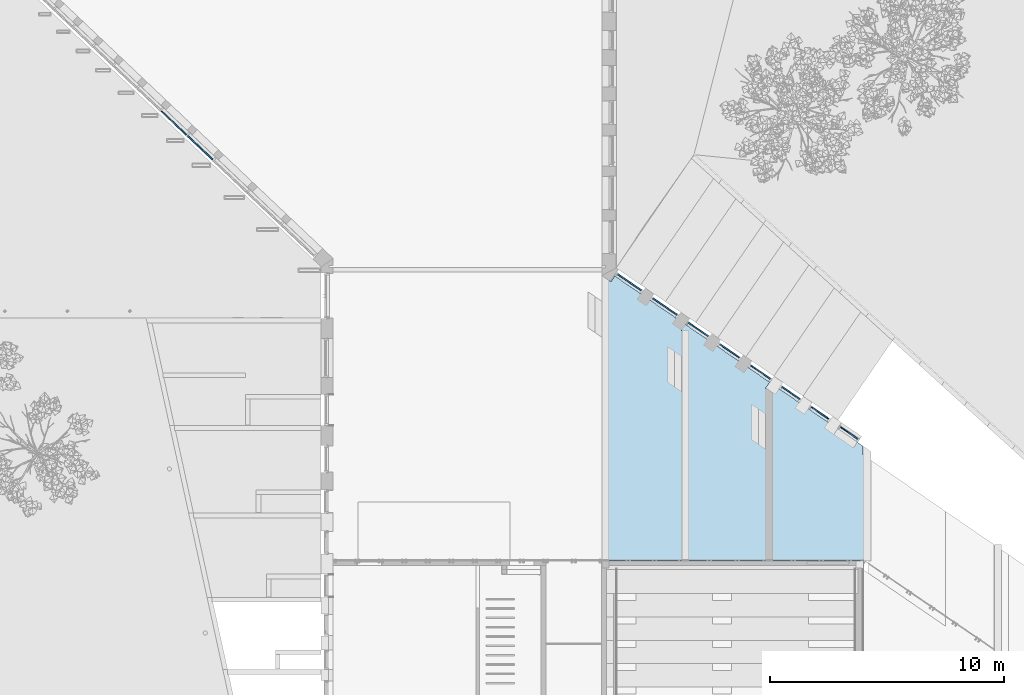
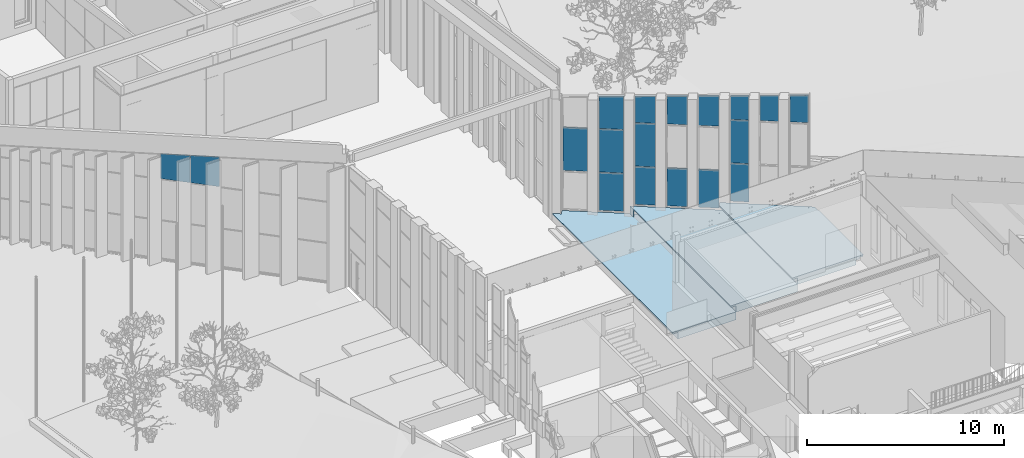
# One storey, part 99 of 246: 18 plates, 3 slabs, 9 elements without a shape of their own.
"""IFC2X3 building model written with IfcOpenShell, lengths in millimetres."""

from ifc_helpers import new_model, entity, si_unit, converted_unit, derived_unit, money_unit, direction, frame, origin_with_axes, place, context, subcontext, project, spatial, faceted_brep, material, material_list, type_object, element, aggregate, save


model = new_model("IFC2X3")

# Units and contexts
model_context = context("Model", 3, precision=0.01, world=origin_with_axes(), true_north=direction((0.0, 1.0)))
body_context = subcontext(model_context, "Body", "Model", "MODEL_VIEW")
ifc_project = project(units=[si_unit("LENGTHUNIT", "METRE", prefix="MILLI"), si_unit("AREAUNIT", "SQUARE_METRE"), si_unit("VOLUMEUNIT", "CUBIC_METRE"), converted_unit("PLANEANGLEUNIT", "DEGREE", entity("IfcPlaneAngleMeasure", 0.0174532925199), si_unit("PLANEANGLEUNIT", "RADIAN"), dimensions=[0, 0, 0, 0, 0, 0, 0]), si_unit("SOLIDANGLEUNIT", "STERADIAN"), money_unit("EUR"), converted_unit("TIMEUNIT", "Year", entity("IfcTimeMeasure", 31556926.0), si_unit("TIMEUNIT", "SECOND"), dimensions=[0, 0, 1, 0, 0, 0, 0]), si_unit("MASSUNIT", "GRAM", prefix="KILO"), si_unit("THERMODYNAMICTEMPERATUREUNIT", "DEGREE_CELSIUS"), si_unit("LUMINOUSINTENSITYUNIT", "LUMEN"), si_unit("ENERGYUNIT", "JOULE", prefix="MEGA"), derived_unit("THERMALCONDUCTANCEUNIT", [(si_unit("POWERUNIT", "WATT"), 1), (si_unit("LENGTHUNIT", "METRE"), -1), (si_unit("THERMODYNAMICTEMPERATUREUNIT", "KELVIN"), -1)]), derived_unit("SPECIFICHEATCAPACITYUNIT", [(si_unit("ENERGYUNIT", "JOULE"), 1), (si_unit("MASSUNIT", "GRAM", prefix="KILO"), -1), (si_unit("THERMODYNAMICTEMPERATUREUNIT", "KELVIN"), -1)]), derived_unit("MASSDENSITYUNIT", [(si_unit("MASSUNIT", "GRAM", prefix="KILO"), 1), (si_unit("VOLUMEUNIT", "CUBIC_METRE"), -1)])], contexts=[model_context])

# Site, building, storey
site_placement = place(None, origin_with_axes())
site = spatial("IfcSite", under=ifc_project, at=site_placement, Name="L.Koidula tn 11b", CompositionType="ELEMENT")
building_placement = place(site_placement, origin_with_axes())
building = spatial("IfcBuilding", under=site, at=building_placement, Name="Rakvere Riigigümnaasium", CompositionType="ELEMENT")
storey_placement = place(building_placement, origin_with_axes())
storey = spatial("IfcBuildingStorey", under=building, at=storey_placement, Name="1.korrus 0,00", CompositionType="ELEMENT", Elevation=0.0)

# Curtain wall, plates
curtain_wall_type = type_object("IfcCurtainWallType", Name="Curtain Wall Type", PredefinedType="NOTDEFINED")
curtain_wall_1_placement = place(storey_placement, frame((33997.0353268, 45217.6604975, 0.0), z_axis=(0.0, 0.0, 1.0), x_axis=(1.0, 0.0, 0.0)))
curtain_wall_1 = element("IfcCurtainWall", 1, at=curtain_wall_1_placement, inside=storey, type_object=curtain_wall_type, Name="KLF-02")
ifc_material_1 = material(Name="Klaaspakett 3x")
plate_type_1 = type_object("IfcPlateType", Name="Distinct Panel 1526 x 1685 x 54", PredefinedType="CURTAIN_PANEL")
plate_1_placement = place(curtain_wall_1_placement, frame((-5317.65867873, 5037.67120567, 5779.26815034), z_axis=(0.0, 0.0, 1.0), x_axis=(0.725960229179, -0.687736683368, 0.0)))
plate_1 = element("IfcPlate", 2, at=plate_1_placement, type_object=plate_type_1, material=ifc_material_1, Name="KLF-30-Klaasid", ObjectType="CURTAIN_PANEL", context=body_context, shape_type="Brep", body=[
    faceted_brep([(762.999986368, 27.0, 867.318635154), (762.999986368, -27.0, 867.318635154), (762.999986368, -27.0, -817.267823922), (762.999986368, 27.0, -817.267823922), (-762.999990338, 27.0, 716.858211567), (-762.999990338, -27.0, 716.858211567), (-762.999990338, -27.0, -817.267823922), (-762.999990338, 27.0, -817.267823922)], [[[0, 1, 2, 3]], [[4, 5, 1, 0]], [[1, 5, 6, 2]], [[3, 2, 6, 7]], [[0, 3, 7, 4]], [[7, 6, 5, 4]]]),
])
plate_type_2 = type_object("IfcPlateType", Name="Distinct Panel 1526 x 1837 x 54", PredefinedType="CURTAIN_PANEL")
plate_2_placement = place(curtain_wall_1_placement, frame((-4192.42032351, 3971.67934645, 5855.68154176), z_axis=(0.0, 0.0, 1.0), x_axis=(0.725960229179, -0.687736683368, 0.0)))
plate_2 = element("IfcPlate", 3, at=plate_2_placement, type_object=plate_type_2, material=ifc_material_1, Name="KLF-33-Klaasid", ObjectType="CURTAIN_PANEL", context=body_context, shape_type="Brep", body=[
    faceted_brep([(762.999976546, 27.0, 943.732025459), (762.999976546, -27.0, 943.732025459), (762.999976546, -27.0, -893.68120552), (762.999976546, 27.0, -893.68120552), (-762.999998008, 27.0, 793.271615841), (-762.999998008, -27.0, 793.271615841), (-762.999998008, -27.0, -893.68120552), (-762.999998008, 27.0, -893.68120552)], [[[0, 1, 2, 3]], [[4, 5, 1, 0]], [[1, 5, 6, 2]], [[3, 2, 6, 7]], [[0, 3, 7, 4]], [[7, 6, 5, 4]]]),
])
aggregate(curtain_wall_1, [plate_1, plate_2])

# Curtain wall, plate
curtain_wall_2_placement = place(storey_placement, frame((48188.9005026, 43426.6609741, 465.0), z_axis=(0.0, 0.0, 1.0), x_axis=(1.0, 0.0, 0.0)))
curtain_wall_2 = element("IfcCurtainWall", 4, at=curtain_wall_2_placement, inside=storey, type_object=curtain_wall_type, Name="KLF-06-29")
plate_type_3 = type_object("IfcPlateType", Name="Distinct Panel 1266 x 2676 x 54", PredefinedType="CURTAIN_PANEL")
plate_3_placement = place(curtain_wall_2_placement, frame((0.0, 0.0, 3750.0), z_axis=(0.0, 0.0, 1.0), x_axis=(-0.824666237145, 0.565619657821, 0.0)))
plate_3 = element("IfcPlate", 5, at=plate_3_placement, type_object=plate_type_3, material=ifc_material_1, Name="KLF-06-29-Klaasid", ObjectType="CURTAIN_PANEL", context=body_context, shape_type="Brep", body=[
    faceted_brep([(-632.999969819, 27.0, 1338.00001341), (-632.999969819, -27.0, 1338.00001341), (632.99988266, -27.0, 1338.00001341), (632.99988266, 27.0, 1338.00001341), (-632.999929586, 27.0, -1338.00001341), (-632.999929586, -27.0, -1338.00001341), (633.000003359, -27.0, -1338.00001341), (633.000003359, 27.0, -1338.00001341)], [[[0, 1, 2, 3]], [[4, 5, 1, 0]], [[1, 5, 6, 2]], [[3, 2, 6, 7]], [[0, 3, 7, 4]], [[7, 6, 5, 4]]]),
])
aggregate(curtain_wall_2, [plate_3])

# Curtain wall, plates
curtain_wall_3_placement = place(storey_placement, frame((49706.2862445, 42385.9208959, 465.0), z_axis=(0.0, 0.0, 1.0), x_axis=(1.0, 0.0, 0.0)))
curtain_wall_3 = element("IfcCurtainWall", 6, at=curtain_wall_3_placement, inside=storey, type_object=curtain_wall_type, Name="KLF-06-28")
plate_4_placement = place(curtain_wall_3_placement, frame((0.0, 0.0, 3750.0), z_axis=(0.0, 0.0, 1.0), x_axis=(-0.824666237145, 0.565619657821, 0.0)))
plate_4 = element("IfcPlate", 7, at=plate_4_placement, type_object=plate_type_3, material=ifc_material_1, Name="KLF-06-28-Klaasid", ObjectType="CURTAIN_PANEL", context=body_context, shape_type="Brep", body=[
    faceted_brep([(-633.000002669, 27.0, 1338.00001341), (-633.000002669, -27.0, 1338.00001341), (633.000010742, -27.0, 1338.00001341), (633.000010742, 27.0, 1338.00001341), (-633.000042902, 27.0, -1338.00001341), (-633.000042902, -27.0, -1338.00001341), (633.000010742, -27.0, -1338.00001341), (633.000010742, 27.0, -1338.00001341)], [[[0, 1, 2, 3]], [[4, 5, 1, 0]], [[1, 5, 6, 2]], [[3, 2, 6, 7]], [[0, 3, 7, 4]], [[7, 6, 5, 4]]]),
])
plate_type_4 = type_object("IfcPlateType", Name="Distinct Panel 1266 x 2351 x 54", PredefinedType="CURTAIN_PANEL")
plate_5_placement = place(curtain_wall_3_placement, frame((9.22752008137e-06, -6.32894625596e-06, 1200.0), z_axis=(0.0, 0.0, 1.0), x_axis=(-0.824666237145, 0.565619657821, 0.0)))
plate_5 = element("IfcPlate", 8, at=plate_5_placement, type_object=plate_type_4, material=ifc_material_1, Name="KLF-06-28-Klaasid", ObjectType="CURTAIN_PANEL", context=body_context, shape_type="Brep", body=[
    faceted_brep([(-633.000018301, 27.0, 1188.0), (-633.000018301, -27.0, 1188.0), (633.000017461, -27.0, 1188.0), (633.000017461, 27.0, 1188.0), (-633.000018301, 27.0, -1163.0), (-633.000018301, -27.0, -1163.0), (633.000017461, -27.0, -1163.0), (633.000017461, 27.0, -1163.0)], [[[0, 1, 2, 3]], [[4, 5, 1, 0]], [[1, 5, 6, 2]], [[3, 2, 6, 7]], [[0, 3, 7, 4]], [[7, 6, 5, 4]]]),
])
plate_type_5 = type_object("IfcPlateType", Name="Distinct Panel 1266 x 2002 x 54", PredefinedType="CURTAIN_PANEL")
plate_6_placement = place(curtain_wall_3_placement, frame((-4.25068691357e-06, 2.91544210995e-06, 6144.10088062), z_axis=(0.0, 0.0, 1.0), x_axis=(-0.824666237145, 0.565619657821, 0.0)))
plate_6 = element("IfcPlate", 9, at=plate_6_placement, type_object=plate_type_5, material=ifc_material_1, Name="KLF-06-28-Klaasid", ObjectType="CURTAIN_PANEL", context=body_context, shape_type="Brep", body=[
    faceted_brep([(-633.00000013, 27.0, 1044.65894084), (-633.00000013, -27.0, 1044.65894084), (633.000002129, -27.0, 969.412230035), (633.000002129, 27.0, 969.412230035), (-633.00000013, 27.0, -1032.10087324), (-633.00000013, -27.0, -1032.10087324), (633.000002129, -27.0, -1032.10087324), (633.000002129, 27.0, -1032.10087324)], [[[0, 1, 2, 3]], [[4, 5, 1, 0]], [[1, 5, 6, 2]], [[3, 2, 6, 7]], [[0, 3, 7, 4]], [[7, 6, 5, 4]]]),
])
aggregate(curtain_wall_3, [plate_4, plate_6, plate_5])

curtain_wall_4_placement = place(storey_placement, frame((51132.8497103, 41407.4731801, 929.821783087), z_axis=(0.0, 0.0, 1.0), x_axis=(1.0, 0.0, 0.0)))
curtain_wall_4 = element("IfcCurtainWall", 10, at=curtain_wall_4_placement, inside=storey, type_object=curtain_wall_type, Name="KLF-06-27")
plate_type_6 = type_object("IfcPlateType", Name="Distinct Panel 1046 x 2676 x 54", PredefinedType="CURTAIN_PANEL")
plate_7_placement = place(curtain_wall_4_placement, frame((0.0, 0.0, 3750.0000654), z_axis=(0.0, 0.0, 1.0), x_axis=(-0.824666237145, 0.565619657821, 0.0)))
plate_7 = element("IfcPlate", 11, at=plate_7_placement, type_object=plate_type_6, material=ifc_material_1, Name="KLF-06-27-Klaasid", ObjectType="CURTAIN_PANEL", context=body_context, shape_type="Brep", body=[
    faceted_brep([(-522.999879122, 27.0, 1338.00001341), (-522.999879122, -27.0, 1338.00001341), (522.999830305, -27.0, 1338.00001341), (522.999830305, 27.0, 1338.00001341), (-522.999919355, 27.0, -1338.00001341), (-522.999919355, -27.0, -1338.00001341), (522.999951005, -27.0, -1338.00001341), (522.999951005, 27.0, -1338.00001341)], [[[0, 1, 2, 3]], [[4, 5, 1, 0]], [[1, 5, 6, 2]], [[3, 2, 6, 7]], [[0, 3, 7, 4]], [[7, 6, 5, 4]]]),
])
plate_type_7 = type_object("IfcPlateType", Name="Distinct Panel 1046 x 1646 x 54", PredefinedType="CURTAIN_PANEL")
plate_8_placement = place(curtain_wall_4_placement, frame((2.42567566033e-05, -1.6637144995e-05, 5963.08060852), z_axis=(0.0, 0.0, 1.0), x_axis=(-0.824666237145, 0.565619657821, 0.0)))
plate_8 = element("IfcPlate", 12, at=plate_8_placement, type_object=plate_type_7, material=ifc_material_1, Name="KLF-06-27-Klaasid", ObjectType="CURTAIN_PANEL", context=body_context, shape_type="Brep", body=[
    faceted_brep([(-522.9999041, 27.0, 857.100618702), (-522.9999041, -27.0, 857.100618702), (522.999878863, -27.0, 794.929885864), (522.999878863, 27.0, 794.929885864), (-522.999851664, 27.0, -851.080547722), (-522.999851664, -27.0, -851.080547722), (522.999878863, -27.0, -851.080547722), (522.999878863, 27.0, -851.080547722)], [[[0, 1, 2, 3]], [[4, 5, 1, 0]], [[1, 5, 6, 2]], [[3, 2, 6, 7]], [[0, 3, 7, 4]], [[7, 6, 5, 4]]]),
])
plate_type_8 = type_object("IfcPlateType", Name="Distinct Panel 1046 x 2351 x 54", PredefinedType="CURTAIN_PANEL")
plate_9_placement = place(curtain_wall_4_placement, frame((-3.6627106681e-05, 2.51216931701e-05, 1200.0000327), z_axis=(0.0, 0.0, 1.0), x_axis=(-0.824666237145, 0.565619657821, 0.0)))
plate_9 = element("IfcPlate", 13, at=plate_9_placement, type_object=plate_type_8, material=ifc_material_1, Name="KLF-06-27-Klaasid", ObjectType="CURTAIN_PANEL", context=body_context, shape_type="Brep", body=[
    faceted_brep([(-522.999953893, 27.0, 1188.00003237), (-522.999953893, -27.0, 1188.00003237), (522.999895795, -27.0, 1188.00003237), (522.999895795, 27.0, 1188.00003237), (-522.999953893, 27.0, -1163.00003169), (-522.999953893, -27.0, -1163.00003169), (523.000003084, -27.0, -1163.00003169), (523.000003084, 27.0, -1163.00003169)], [[[0, 1, 2, 3]], [[4, 5, 1, 0]], [[1, 5, 6, 2]], [[3, 2, 6, 7]], [[0, 3, 7, 4]], [[7, 6, 5, 4]]]),
])
aggregate(curtain_wall_4, [plate_7, plate_8, plate_9])

# Curtain wall, plate
curtain_wall_5_placement = place(storey_placement, frame((52468.8871131, 40491.1147045, 929.82179112), z_axis=(0.0, 0.0, 1.0), x_axis=(1.0, 0.0, 0.0)))
curtain_wall_5 = element("IfcCurtainWall", 14, at=curtain_wall_5_placement, inside=storey, type_object=curtain_wall_type, Name="KLF-06-26")
plate_10_placement = place(curtain_wall_5_placement, frame((0.0, 0.0, 1200.00002868), z_axis=(0.0, 0.0, 1.0), x_axis=(-0.824667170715, 0.565618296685, 0.0)))
plate_10 = element("IfcPlate", 15, at=plate_10_placement, type_object=plate_type_8, material=ifc_material_1, Name="KLF-06-26-Klaasid", ObjectType="CURTAIN_PANEL", context=body_context, shape_type="Brep", body=[
    faceted_brep([(-523.000017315, 27.0, 1188.0000284), (-523.000017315, -27.0, 1188.0000284), (523.000007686, -27.0, 1188.0000284), (523.000007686, 27.0, 1188.0000284), (-523.000017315, 27.0, -1163.0000278), (-523.000017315, -27.0, -1163.0000278), (523.000007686, -27.0, -1163.0000278), (523.000007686, 27.0, -1163.0000278)], [[[0, 1, 2, 3]], [[4, 5, 1, 0]], [[1, 5, 6, 2]], [[3, 2, 6, 7]], [[0, 3, 7, 4]], [[7, 6, 5, 4]]]),
])

curtain_wall_6_placement = place(storey_placement, frame((53804.0228659, 39575.3763588, 929.821791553), z_axis=(0.0, 0.0, 1.0), x_axis=(1.0, 0.0, 0.0)))
curtain_wall_6 = element("IfcCurtainWall", 16, at=curtain_wall_6_placement, inside=storey, type_object=curtain_wall_type, Name="KLF-06-25")
plate_11_placement = place(curtain_wall_6_placement, frame((-6.52234177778e-06, 4.47352022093e-06, 1200.00002847), z_axis=(0.0, 0.0, 1.0), x_axis=(-0.824666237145, 0.565619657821, 0.0)))
plate_11 = element("IfcPlate", 17, at=plate_11_placement, type_object=plate_type_8, material=ifc_material_1, Name="KLF-06-25-Klaasid", ObjectType="CURTAIN_PANEL", context=body_context, shape_type="Brep", body=[
    faceted_brep([(-523.000633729, 27.0, 1188.00002818), (-523.000633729, -27.0, 1188.00002818), (523.000642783, -27.0, 1188.00002818), (523.000642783, 27.0, 1188.00002818), (-523.000633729, 27.0, -1163.00002759), (-523.000633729, -27.0, -1163.00002759), (523.000642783, -27.0, -1163.00002759), (523.000642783, 27.0, -1163.00002759)], [[[0, 1, 2, 3]], [[4, 5, 1, 0]], [[1, 5, 6, 2]], [[3, 2, 6, 7]], [[0, 3, 7, 4]], [[7, 6, 5, 4]]]),
])

# Plate
plate_type_9 = type_object("IfcPlateType", Name="Distinct Panel 1046 x 1742 x 54", PredefinedType="CURTAIN_PANEL")
plate_12_placement = place(curtain_wall_5_placement, frame((-2.79257434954e-05, 1.915355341e-05, 6011.22701384), z_axis=(0.0, 0.0, 1.0), x_axis=(-0.824667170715, 0.565618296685, 0.0)))
plate_12 = element("IfcPlate", 18, at=plate_12_placement, type_object=plate_type_9, material=ifc_material_1, Name="KLF-06-26-Klaasid", ObjectType="CURTAIN_PANEL", context=body_context, shape_type="Brep", body=[
    faceted_brep([(-522.999933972, 27.0, 905.246957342), (-522.999933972, -27.0, 905.246957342), (522.999965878, -27.0, 843.076370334), (522.999965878, 27.0, 843.076370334), (-523.00001693, 27.0, -899.226964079), (-523.00001693, -27.0, -899.226964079), (522.999965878, -27.0, -899.226964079), (522.999965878, 27.0, -899.226964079)], [[[0, 1, 2, 3]], [[4, 5, 1, 0]], [[1, 5, 6, 2]], [[3, 2, 6, 7]], [[0, 3, 7, 4]], [[7, 6, 5, 4]]]),
])

aggregate(curtain_wall_5, [plate_10, plate_12])

plate_type_10 = type_object("IfcPlateType", Name="Distinct Panel 1046 x 1839 x 54", PredefinedType="CURTAIN_PANEL")
plate_13_placement = place(curtain_wall_6_placement, frame((1.27931940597e-05, -8.77456329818e-06, 6059.35576031), z_axis=(0.0, 0.0, 1.0), x_axis=(-0.824666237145, 0.565619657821, 0.0)))
plate_13 = element("IfcPlate", 19, at=plate_13_placement, type_object=plate_type_10, material=ifc_material_1, Name="KLF-06-25-Klaasid", ObjectType="CURTAIN_PANEL", context=body_context, shape_type="Brep", body=[
    faceted_brep([(-523.00068402, 27.0, 953.348084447), (-523.00068402, -27.0, 953.348084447), (523.000662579, -27.0, 891.232943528), (523.000662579, 27.0, 891.232943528), (-523.000654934, 27.0, -947.355710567), (-523.000654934, -27.0, -947.355710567), (523.000662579, -27.0, -947.355710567), (523.000662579, 27.0, -947.355710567)], [[[0, 1, 2, 3]], [[4, 5, 1, 0]], [[1, 5, 6, 2]], [[3, 2, 6, 7]], [[0, 3, 7, 4]], [[7, 6, 5, 4]]]),
])

aggregate(curtain_wall_6, [plate_11, plate_13])

# Curtain wall, plates
curtain_wall_7_placement = place(storey_placement, frame((55097.3440674, 38688.315244, 1395.00000109), z_axis=(0.0, 0.0, 1.0), x_axis=(1.0, 0.0, 0.0)))
curtain_wall_7 = element("IfcCurtainWall", 20, at=curtain_wall_7_placement, inside=storey, type_object=curtain_wall_type, Name="KLF-06-24")
plate_type_11 = type_object("IfcPlateType", Name="Distinct Panel 940 x 2676 x 54", PredefinedType="CURTAIN_PANEL")
plate_14_placement = place(curtain_wall_7_placement, frame((0.0, 0.0, 3750.00005693), z_axis=(0.0, 0.0, 1.0), x_axis=(-0.824666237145, 0.565619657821, 0.0)))
plate_14 = element("IfcPlate", 21, at=plate_14_placement, type_object=plate_type_11, material=ifc_material_1, Name="KLF-06-24-Klaasid", ObjectType="CURTAIN_PANEL", context=body_context, shape_type="Brep", body=[
    faceted_brep([(-470.148461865, 27.0, 1338.00001341), (-470.148461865, -27.0, 1338.00001341), (470.298188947, -27.0, 1338.00001341), (470.298188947, 27.0, 1338.00001341), (-470.447917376, 27.0, -1338.00001341), (-470.447917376, -27.0, -1338.00001341), (470.298188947, -27.0, -1338.00001341), (470.298188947, 27.0, -1338.00001341)], [[[0, 1, 2, 3]], [[4, 5, 1, 0]], [[1, 5, 6, 2]], [[3, 2, 6, 7]], [[0, 3, 7, 4]], [[7, 6, 5, 4]]]),
])
plate_type_12 = type_object("IfcPlateType", Name="Distinct Panel 940 x 1470 x 54", PredefinedType="CURTAIN_PANEL")
plate_15_placement = place(curtain_wall_7_placement, frame((83.5467435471, -57.302795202, 6000.05388372), z_axis=(0.0, 0.0, 1.0), x_axis=(-0.824666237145, 0.565619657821, 0.0)))
plate_15 = element("IfcPlate", 22, at=plate_15_placement, type_object=plate_type_12, material=ifc_material_1, Name="KLF-06-24-Klaasid", ObjectType="CURTAIN_PANEL", context=body_context, shape_type="Brep", body=[
    faceted_brep([(-368.689303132, 27.0, 637.533510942), (-368.689303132, -27.0, 637.533510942), (571.607945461, -27.0, 581.645533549), (571.607945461, 27.0, 581.645533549), (-368.689256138, 27.0, 506.796061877), (-368.689256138, -27.0, 506.796061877), (-368.836088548, -27.0, -888.053819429), (571.607945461, -27.0, -888.053819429), (571.607945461, 27.0, -888.053819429), (-368.836088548, 27.0, -888.053819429)], [[[0, 1, 2, 3]], [[4, 5, 1, 0]], [[1, 5, 6, 7, 2]], [[3, 2, 7, 8]], [[0, 3, 8, 9, 4]], [[9, 6, 5, 4]], [[8, 7, 6, 9]]]),
])
plate_type_13 = type_object("IfcPlateType", Name="Distinct Panel 941 x 2351 x 54", PredefinedType="CURTAIN_PANEL")
plate_16_placement = place(curtain_wall_7_placement, frame((0.114389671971, -0.0784572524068, 1200.00002847), z_axis=(0.0, 0.0, 1.0), x_axis=(-0.824666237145, 0.565619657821, 0.0)))
plate_16 = element("IfcPlate", 23, at=plate_16_placement, type_object=plate_type_13, material=ifc_material_1, Name="KLF-06-24-Klaasid", ObjectType="CURTAIN_PANEL", context=body_context, shape_type="Brep", body=[
    faceted_brep([(-470.311787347, 27.0, 1188.00002818), (-470.311787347, -27.0, 1188.00002818), (470.436893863, -27.0, 1188.00002818), (470.436893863, 27.0, 1188.00002818), (-470.559337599, 27.0, -1163.00002759), (-470.559337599, -27.0, -1163.00002759), (470.436893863, -27.0, -1163.00002759), (470.436893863, 27.0, -1163.00002759)], [[[0, 1, 2, 3]], [[4, 5, 1, 0]], [[1, 5, 6, 2]], [[3, 2, 6, 7]], [[0, 3, 7, 4]], [[7, 6, 5, 4]]]),
])
aggregate(curtain_wall_7, [plate_14, plate_15, plate_16])

# Curtain wall, plate
curtain_wall_8_placement = place(storey_placement, frame((57595.8829175, 36974.6265181, 1395.00000109), z_axis=(0.0, 0.0, 1.0), x_axis=(1.0, 0.0, 0.0)))
curtain_wall_8 = element("IfcCurtainWall", 24, at=curtain_wall_8_placement, inside=storey, type_object=curtain_wall_type, Name="KLF-06-22")
plate_type_14 = type_object("IfcPlateType", Name="Distinct Panel 941 x 1650 x 54", PredefinedType="CURTAIN_PANEL")
plate_17_placement = place(curtain_wall_8_placement, frame((-3.25434967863e-06, 2.23207763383e-06, 5963.39793372), z_axis=(0.0, 0.0, 1.0), x_axis=(-0.824666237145, 0.565619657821, 0.0)))
plate_17 = element("IfcPlate", 25, at=plate_17_placement, type_object=plate_type_14, material=ifc_material_1, Name="KLF-06-22-Klaasid", ObjectType="CURTAIN_PANEL", context=body_context, shape_type="Brep", body=[
    faceted_brep([(-470.499999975, 27.0, 854.29746839), (-470.499999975, -27.0, 854.29746839), (470.499984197, -27.0, 798.367707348), (470.499984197, 27.0, 798.367707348), (-470.499999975, 27.0, -851.397870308), (-470.499999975, -27.0, -851.397870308), (470.500010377, -27.0, -851.397870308), (470.500010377, 27.0, -851.397870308)], [[[0, 1, 2, 3]], [[4, 5, 1, 0]], [[1, 5, 6, 2]], [[3, 2, 6, 7]], [[0, 3, 7, 4]], [[7, 6, 5, 4]]]),
])
aggregate(curtain_wall_8, [plate_17])

curtain_wall_9_placement = place(storey_placement, frame((56346.8798402, 37831.2873164, 1395.00000109), z_axis=(0.0, 0.0, 1.0), x_axis=(1.0, 0.0, 0.0)))
curtain_wall_9 = element("IfcCurtainWall", 26, at=curtain_wall_9_placement, inside=storey, type_object=curtain_wall_type, Name="KLF-06-23")
plate_type_15 = type_object("IfcPlateType", Name="Distinct Panel 941 x 1560 x 54", PredefinedType="CURTAIN_PANEL")
plate_18_placement = place(curtain_wall_9_placement, frame((9.62579349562e-07, -6.60207888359e-07, 5918.38797572), z_axis=(0.0, 0.0, 1.0), x_axis=(-0.824666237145, 0.565619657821, 0.0)))
plate_18 = element("IfcPlate", 27, at=plate_18_placement, type_object=plate_type_15, material=ifc_material_1, Name="KLF-06-23-Klaasid", ObjectType="CURTAIN_PANEL", context=body_context, shape_type="Brep", body=[
    faceted_brep([(-470.500045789, 27.0, 809.287447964), (-470.500045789, -27.0, 809.287447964), (470.500059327, -27.0, 753.357797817), (470.500059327, 27.0, 753.357797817), (-470.500045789, 27.0, -806.387923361), (-470.500045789, -27.0, -806.387923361), (470.500034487, -27.0, -806.387923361), (470.500034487, 27.0, -806.387923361)], [[[0, 1, 2, 3]], [[4, 5, 1, 0]], [[1, 5, 6, 2]], [[3, 2, 6, 7]], [[0, 3, 7, 4]], [[7, 6, 5, 4]]]),
])
aggregate(curtain_wall_9, [plate_18])

# Slabs
ifc_material_2 = material(Name="Parkett")
ifc_material_3 = material(Name="Betoon element / plaat")
ifc_material_4 = material(Name="Soojustus - EPS")
ifc_material_5 = material(Name="Killustik")
ifc_material_list = material_list([ifc_material_2, ifc_material_3, ifc_material_4, ifc_material_4, ifc_material_5])
slab_type = type_object("IfcSlabType", Name="PP-01 490", PredefinedType="NOTDEFINED")
slab_1_placement = place(storey_placement, frame((54190.0426742, 39148.1224736, 1394.82181515), z_axis=(0.0, 0.0, 1.0), x_axis=(1.0, 0.0, 0.0)))
element("IfcSlab", 28, at=slab_1_placement, inside=storey, type_object=slab_type, material=ifc_material_list, Name="Suured astmed pinnasel", PredefinedType="NOTDEFINED", context=body_context, shape_type="Brep", body=[
    faceted_brep([(-168.862059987, -246.198586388, 0.0), (-168.862341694, -278.280052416, 0.0), (-158.862341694, -285.138826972, 0.0), (-158.862341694, -7647.66689569, 0.0), (4014.57300482, -7647.66689569, 0.0), (4014.57300482, -3117.28448804, 0.0), (3578.87980211, -2818.45234277, 0.0), (3748.56576527, -2571.05251676, 0.0), (0.0, 0.0, 0.0), (-168.862059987, -246.198586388, -10.0), (-168.862341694, -278.280052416, -10.0), (-158.862341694, -285.138826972, -10.0), (-158.862341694, -7647.66689569, -10.0), (4014.57300482, -7647.66689569, -10.0), (4014.57300482, -3117.28448804, -10.0), (3578.87980211, -2818.45234277, -10.0), (3748.56576527, -2571.05251676, -10.0), (0.0, 0.0, -10.0)], [[[0, 1, 2, 3, 4, 5, 6, 7, 8]], [[0, 9, 10, 1]], [[10, 11, 2, 1]], [[11, 12, 3, 2]], [[13, 4, 3, 12]], [[4, 13, 14, 5]], [[14, 15, 6, 5]], [[6, 15, 16, 7]], [[17, 8, 7, 16]], [[0, 8, 17, 9]], [[13, 12, 11, 10, 9, 17, 16, 15, 14]]]),
    faceted_brep([(3989.99213592, -7647.66689569, -10.0), (3989.99213592, -2736.64565273, -10.0), (0.0, 0.0, -10.0), (-168.862059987, -246.198586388, -10.0), (-168.862341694, -278.280052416, -10.0), (-148.862341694, -291.997601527, -10.0), (-148.862341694, -7647.66689569, -10.0), (3989.99213592, -2736.64565273, -90.0), (3989.99213592, -7647.66689569, -90.0), (0.0, 0.0, -90.0), (-168.862059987, -246.198586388, -90.0), (-168.862341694, -278.280052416, -90.0), (-148.862341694, -291.997601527, -90.0), (-148.862341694, -7647.66689569, -90.0)], [[[0, 1, 2, 3, 4, 5, 6]], [[7, 1, 0, 8]], [[1, 7, 9, 2]], [[3, 2, 9, 10]], [[3, 10, 11, 4]], [[4, 11, 12, 5]], [[12, 13, 6, 5]], [[8, 0, 6, 13]], [[7, 8, 13, 12, 11, 10, 9]]]),
    faceted_brep([(3564.73736037, -2839.07191604, -190.0), (151.137658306, -497.760838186, -190.0), (151.137658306, -497.760838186, -90.0), (3564.73736037, -2839.07191604, -90.0), (3789.99213592, -7647.66697667, -190.0), (151.137658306, -7647.66689569, -190.0), (3578.87980211, -2818.45234277, -190.0), (3789.99213592, -2963.24953312, -190.0), (151.137658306, -7647.66689569, -90.0), (3789.99213592, -7647.66697667, -90.0), (3789.99213592, -2963.24953312, -90.0), (3578.87980211, -2818.45234277, -90.0)], [[[0, 1, 2, 3]], [[4, 5, 1, 0, 6, 7]], [[5, 8, 2, 1]], [[3, 2, 8, 9, 10, 11]], [[3, 11, 6, 0]], [[9, 8, 5, 4]], [[6, 11, 10, 7]], [[4, 7, 10, 9]]]),
    faceted_brep([(151.137658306, -497.760838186, -290.0), (151.137658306, -497.760838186, -190.0), (3564.73736037, -2839.07191604, -190.0), (3564.73736037, -2839.07191604, -290.0), (151.137658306, -7647.66689569, -190.0), (151.137658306, -7647.66689569, -290.0), (3589.99213592, -7647.66697667, -190.0), (3589.99213592, -2826.07404201, -190.0), (3578.87980211, -2818.45234277, -190.0), (3578.87980211, -2818.45234277, -290.0), (3589.99213592, -2826.07404201, -290.0), (3589.99213592, -7647.66697667, -290.0)], [[[0, 1, 2, 3]], [[4, 1, 0, 5]], [[1, 4, 6, 7, 8, 2]], [[8, 9, 3, 2]], [[5, 0, 3, 9, 10, 11]], [[4, 5, 11, 6]], [[10, 7, 6, 11]], [[8, 7, 10, 9]]]),
    faceted_brep([(151.137658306, -497.760838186, -490.0), (151.137658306, -497.760838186, -290.0), (3564.73736037, -2839.07191604, -290.0), (3564.73736037, -2839.07191604, -490.0), (151.137658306, -7647.66689569, -290.0), (151.137658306, -7647.66689569, -490.0), (3589.99213592, -7647.66697667, -290.0), (3589.99213592, -2826.07404201, -290.0), (3578.87980211, -2818.45234277, -290.0), (3578.87980211, -2818.45234277, -490.0), (3589.99213592, -2826.07404201, -490.0), (3589.99213592, -7647.66697667, -490.0)], [[[0, 1, 2, 3]], [[4, 1, 0, 5]], [[1, 4, 6, 7, 8, 2]], [[8, 9, 3, 2]], [[5, 0, 3, 9, 10, 11]], [[4, 5, 11, 6]], [[10, 7, 6, 11]], [[8, 7, 10, 9]]]),
])
slab_2_placement = place(storey_placement, frame((54341.1803337, 39044.4604513, 929.821815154), z_axis=(0.0, 0.0, 1.0), x_axis=(1.0, 0.0, 0.0)))
element("IfcSlab", 29, at=slab_2_placement, inside=storey, type_object=slab_type, material=ifc_material_list, Name="Suured astmed pinnasel", PredefinedType="NOTDEFINED", context=body_context, shape_type="Brep", body=[
    faceted_brep([(-320.000001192, -7544.00493607, -2.62360311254e-06), (-320.000001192, -174.618030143, 0.0), (-334.965312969, -164.35366018, 0.0), (-151.138891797, 103.662761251, 0.0), (-3746.65218404, 2569.74571468, 0.0), (-3916.33808138, 2322.34584354, 0.0), (-3921.18037435, 2325.66706122, -2.96000330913e-05), (-3921.18037435, 2295.35040111, -3.2066824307e-05), (-3911.18037435, 2288.49162655, -3.2066824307e-05), (-3911.18037435, -7544.00493607, -3.2066824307e-05), (-320.000001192, -174.618030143, -10.0), (-320.000001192, -7544.00493607, -10.0), (-334.965312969, -164.35366018, -10.0), (-151.138891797, 103.662761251, -10.0), (-3746.65218404, 2569.74571468, -10.0), (-3916.33808138, 2322.34584354, -10.0), (-3921.18037435, 2325.66706122, -10.0), (-3921.18037435, 2295.35040111, -10.0), (-3911.18037435, 2288.49162655, -10.0), (-3911.18037435, -7544.00493607, -10.0)], [[[0, 1, 2, 3, 4, 5, 6, 7, 8, 9]], [[10, 1, 0, 11]], [[1, 10, 12, 2]], [[13, 3, 2, 12]], [[14, 4, 3, 13]], [[5, 4, 14, 15]], [[6, 5, 15, 16]], [[6, 16, 17, 7]], [[8, 7, 17, 18]], [[9, 8, 18, 19]], [[11, 0, 9, 19]], [[10, 11, 19, 18, 17, 16, 15, 14, 13, 12]]]),
    faceted_brep([(-3901.18037435, 2281.632852, -10.0), (-3901.18037435, -7544.00493607, -10.0), (0.0, -7544.00485153, -10.0), (0.0, 0.0, -10.0), (-3921.18037435, 2689.44928822, -10.0), (-3921.18037435, 2295.35040111, -10.0), (-3901.18037435, 2281.632852, -90.0), (-3901.18037435, -7544.00493607, -90.0), (0.0, -7544.00485153, -90.0), (0.0, 0.0, -90.0), (-3921.18037435, 2689.44928822, -90.0), (-3921.18037435, 2295.35040111, -90.0)], [[[0, 1, 2, 3, 4, 5]], [[1, 0, 6, 7]], [[1, 7, 8, 2]], [[8, 9, 3, 2]], [[9, 10, 4, 3]], [[11, 5, 4, 10]], [[6, 0, 5, 11]], [[6, 11, 10, 9, 8, 7]]]),
    faceted_brep([(-3601.18037435, 2075.86961534, -190.0), (-3601.18037435, 2075.86961534, -90.0), (-300.000001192, -188.335579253, -90.0), (-300.000001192, -188.335579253, -100.0), (-1.19211307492e-06, -394.098815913, -100.0), (-1.13925580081e-06, -394.098815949, -190.0), (-3601.18037435, -7544.00493607, -90.0), (-3601.18037435, -7544.00493607, -190.0), (0.0, -7544.00485153, -90.0), (-1.19211307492e-06, -144.302935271, -90.0), (-300.000001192, -144.302935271, -90.0), (-300.000001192, -144.302935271, -100.0), (-1.19211307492e-06, -144.302935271, -100.0), (0.0, -7544.00485153, -190.0)], [[[0, 1, 2, 3, 4, 5]], [[6, 1, 0, 7]], [[1, 6, 8, 9, 10, 2]], [[2, 10, 11, 3]], [[12, 4, 3, 11]], [[4, 12, 9, 8, 13, 5]], [[7, 0, 5, 13]], [[6, 7, 13, 8]], [[10, 9, 12, 11]]]),
    faceted_brep([(-3921.18037435, 2313.58261368, -90.0), (-3745.85829362, 2569.19982244, -90.0), (-3921.18037435, 2689.44928822, -90.0), (-3921.18037435, 2313.58261368, -190.0), (-3745.85829362, 2569.19982244, -190.0), (-3921.18037435, 2689.44928822, -190.0)], [[[0, 1, 2]], [[1, 0, 3, 4]], [[1, 4, 5, 2]], [[3, 0, 2, 5]], [[3, 5, 4]]]),
    faceted_brep([(-3601.18037435, 2075.86961534, -290.0), (-3601.18037435, 2075.86961534, -190.0), (-1.13925580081e-06, -394.098815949, -190.0), (-1.0805294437e-06, -394.098815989, -290.0), (-3601.18037435, -7544.00493607, -190.0), (-3601.18037435, -7544.00493607, -290.0), (0.0, -7544.00485153, -190.0), (0.0, -7544.00485153, -290.0)], [[[0, 1, 2, 3]], [[4, 1, 0, 5]], [[1, 4, 6, 2]], [[3, 2, 6, 7]], [[5, 0, 3, 7]], [[4, 5, 7, 6]]]),
    faceted_brep([(-3921.18037435, 2313.58261368, -190.0), (-3745.85829362, 2569.19982244, -190.0), (-3921.18037435, 2689.44928822, -190.0), (-3921.18037435, 2313.58261368, -290.0), (-3745.85829362, 2569.19982244, -290.0), (-3921.18037435, 2689.44928822, -290.0)], [[[0, 1, 2]], [[1, 0, 3, 4]], [[1, 4, 5, 2]], [[3, 0, 2, 5]], [[3, 5, 4]]]),
    faceted_brep([(-3601.18037435, 2075.86961534, -490.0), (-3601.18037435, 2075.86961534, -290.0), (-1.0805294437e-06, -394.098815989, -290.0), (-9.63069624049e-07, -394.09881607, -490.0), (-334.965312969, -164.35366018, -490.0), (-3601.18037435, -7544.00493607, -290.0), (-3601.18037435, -7544.00493607, -490.0), (0.0, -7544.00485153, -290.0), (0.0, -7544.00485153, -490.0)], [[[0, 1, 2, 3, 4]], [[5, 1, 0, 6]], [[1, 5, 7, 2]], [[3, 2, 7, 8]], [[6, 0, 4, 3, 8]], [[5, 6, 8, 7]]]),
    faceted_brep([(-3921.18037435, 2313.58261368, -290.0), (-3745.85829362, 2569.19982244, -290.0), (-3921.18037435, 2689.44928822, -290.0), (-3921.18037435, 2313.58261368, -464.999998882), (-3745.85829362, 2569.19982244, -464.999998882), (-3921.18037435, 2689.44928822, -464.999998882)], [[[0, 1, 2]], [[1, 0, 3, 4]], [[1, 4, 5, 2]], [[3, 0, 2, 5]], [[3, 5, 4]]]),
])
slab_3_placement = place(storey_placement, frame((50739.9999599, 41514.4289812, 464.821816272), z_axis=(0.0, 0.0, 1.0), x_axis=(1.0, 0.0, 0.0)))
element("IfcSlab", 30, at=slab_3_placement, inside=storey, type_object=slab_type, material=ifc_material_list, Name="Suured astmed pinnasel", PredefinedType="NOTDEFINED", context=body_context, shape_type="Brep", body=[
    faceted_brep([(-3729.99996642, -10013.973466, -1.55526875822e-05), (-320.000000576, -10013.973466, -1.33427979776e-06), (-320.000000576, -174.618128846, 0.0), (-328.50437111, -168.785172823, 0.0), (-144.677901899, 99.2313186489, 0.0), (-3178.91758587, 2180.34806824, 0.0), (-3349.10479406, 1933.29203471, 0.0), (-3729.99996649, 2194.53929034, -1.55526875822e-05), (-3729.99996642, -10013.973466, -10.0), (-320.000000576, -10013.973466, -10.0), (-320.000000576, -174.618128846, -10.0), (-328.50437111, -168.785172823, -10.0), (-144.677901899, 99.2313186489, -10.0), (-3178.91758587, 2180.34806824, -10.0), (-3349.10479406, 1933.29203471, -10.0), (-3729.99996648, 2194.53929034, -10.0)], [[[0, 1, 2, 3, 4, 5, 6, 7]], [[8, 9, 1, 0]], [[9, 10, 2, 1]], [[3, 2, 10, 11]], [[11, 12, 4, 3]], [[5, 4, 12, 13]], [[5, 13, 14, 6]], [[14, 15, 7, 6]], [[8, 0, 7, 15]], [[11, 10, 9, 8, 15, 14, 13, 12]]]),
    faceted_brep([(-3349.10479406, 1933.29203471, -90.0), (-3719.99996653, 2187.68051991, -90.0), (-3719.99996655, 2187.68051993, -10.0), (-3349.10479406, 1933.29203471, -10.0), (0.0, -10013.9733954, -90.0), (-3719.99996642, -10013.973466, -90.0), (-3178.91758587, 2180.34806824, -90.0), (0.0, 0.0, -90.0), (-3719.99996642, -10013.973466, -10.0), (0.0, -10013.9733954, -10.0), (0.0, 0.0, -10.0), (-3178.91758587, 2180.34806824, -10.0)], [[[0, 1, 2, 3]], [[4, 5, 1, 0, 6, 7]], [[5, 8, 2, 1]], [[3, 2, 8, 9, 10, 11]], [[11, 6, 0, 3]], [[9, 8, 5, 4]], [[10, 7, 6, 11]], [[9, 4, 7, 10]]]),
    faceted_brep([(-3419.99996642, 1951.60195987, -190.0), (-3419.99996642, 1951.60195987, -90.0), (-300.000000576, -188.335677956, -90.0), (-300.000000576, -188.335677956, -100.0), (-5.76413583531e-07, -394.098914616, -100.0), (-5.4325965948e-07, -394.098914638, -190.0), (-3419.99996642, -10013.973466, -90.0), (-3419.99996642, -10013.973466, -190.0), (0.0, -10013.9733954, -90.0), (-5.76413583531e-07, -148.169456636, -90.0), (-300.000000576, -148.169456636, -90.0), (-300.000000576, -148.169456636, -100.0), (-5.76413583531e-07, -148.169456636, -100.0), (0.0, -10013.9733954, -190.0)], [[[0, 1, 2, 3, 4, 5]], [[6, 1, 0, 7]], [[1, 6, 8, 9, 10, 2]], [[2, 10, 11, 3]], [[12, 4, 3, 11]], [[4, 12, 9, 8, 13, 5]], [[7, 0, 5, 13]], [[6, 7, 13, 8]], [[10, 9, 12, 11]]]),
    faceted_brep([(-3419.99996642, 1951.60195987, -290.0), (-3419.99996642, 1951.60195987, -190.0), (-5.4325965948e-07, -394.098914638, -190.0), (-5.06425124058e-07, -394.098914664, -290.0), (-3419.99996642, -10013.973466, -190.0), (-3419.99996642, -10013.973466, -290.0), (0.0, -10013.9733954, -190.0), (0.0, -10013.9733954, -290.0)], [[[0, 1, 2, 3]], [[4, 1, 0, 5]], [[1, 4, 6, 2]], [[3, 2, 6, 7]], [[5, 0, 3, 7]], [[4, 5, 7, 6]]]),
    faceted_brep([(-3419.99996642, 1951.60195987, -490.0), (-3419.99996642, 1951.60195987, -290.0), (-5.06425124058e-07, -394.098914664, -290.0), (-4.32756053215e-07, -394.098914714, -490.0), (-3419.99996642, -10013.973466, -290.0), (-3419.99996642, -10013.973466, -490.0), (0.0, -10013.9733954, -290.0), (0.0, -10013.9733954, -490.0)], [[[0, 1, 2, 3]], [[4, 1, 0, 5]], [[1, 4, 6, 2]], [[3, 2, 6, 7]], [[5, 0, 3, 7]], [[4, 5, 7, 6]]]),
])

save(model, "model.ifc")
